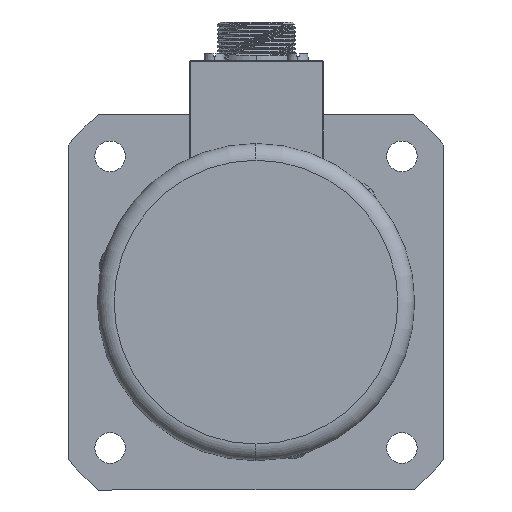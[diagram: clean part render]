
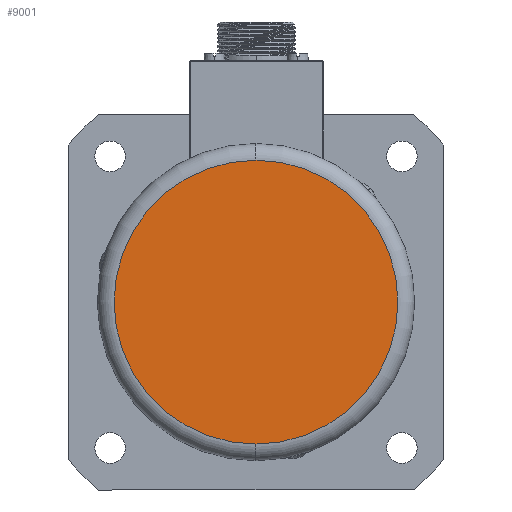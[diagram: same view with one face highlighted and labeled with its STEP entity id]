
A CAD part, left-side view. The second image highlights one B-rep face of the part: STEP entity #9001.
In plain terms, the highlighted planar face has unit normal (-1, 0, 0).
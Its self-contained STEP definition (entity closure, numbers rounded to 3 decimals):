
#664 = EDGE_LOOP ( 'NONE', ( #2318, #4279 ) ) ;
#792 = EDGE_CURVE ( 'NONE', #6581, #4500, #12963, .T. ) ;
#834 = EDGE_CURVE ( 'NONE', #4500, #6581, #12942, .T. ) ;
#2293 = DIRECTION ( 'NONE',  ( 0., 0., 1. ) ) ;
#2318 = ORIENTED_EDGE ( 'NONE', *, *, #792, .T. ) ;
#2328 = DIRECTION ( 'NONE',  ( -1., 0., 0. ) ) ;
#2346 = CARTESIAN_POINT ( 'NONE',  ( 22.642, 51.139, 40.833 ) ) ;
#2819 = DIRECTION ( 'NONE',  ( 0., 0., 1. ) ) ;
#2865 = DIRECTION ( 'NONE',  ( -1., 0., 0. ) ) ;
#2915 = CARTESIAN_POINT ( 'NONE',  ( 22.642, 51.139, 40.833 ) ) ;
#3591 = FACE_OUTER_BOUND ( 'NONE', #664, .T. ) ;
#3873 = AXIS2_PLACEMENT_3D ( 'NONE', #2346, #2328, #2293 ) ;
#3891 = AXIS2_PLACEMENT_3D ( 'NONE', #2915, #2865, #2819 ) ;
#4279 = ORIENTED_EDGE ( 'NONE', *, *, #834, .T. ) ;
#4500 = VERTEX_POINT ( 'NONE', #13352 ) ;
#6581 = VERTEX_POINT ( 'NONE', #7344 ) ;
#6777 = DIRECTION ( 'NONE',  ( 1., 0., 0. ) ) ;
#7344 = CARTESIAN_POINT ( 'NONE',  ( 22.642, 51.139, 66.333 ) ) ;
#8265 = AXIS2_PLACEMENT_3D ( 'NONE', #13917, #6777, #15056 ) ;
#9001 = ADVANCED_FACE ( 'NONE', ( #3591 ), #9276, .F. ) ;
#9276 = PLANE ( 'NONE',  #8265 ) ;
#12942 = CIRCLE ( 'NONE', #3873, 25.5 ) ;
#12963 = CIRCLE ( 'NONE', #3891, 25.5 ) ;
#13352 = CARTESIAN_POINT ( 'NONE',  ( 22.642, 51.139, 15.333 ) ) ;
#13917 = CARTESIAN_POINT ( 'NONE',  ( 22.642, 76.639, 40.833 ) ) ;
#15056 = DIRECTION ( 'NONE',  ( 0., 0., -1. ) ) ;
